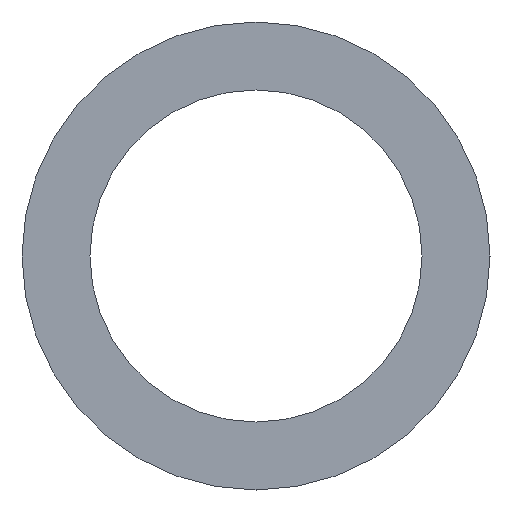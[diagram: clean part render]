
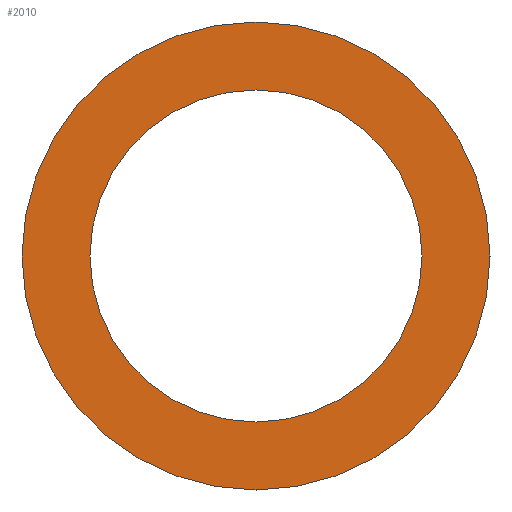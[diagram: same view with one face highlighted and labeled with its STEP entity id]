
A CAD part, front view. The second image highlights one B-rep face of the part: STEP entity #2010.
In plain terms, the highlighted planar face has unit normal (0, -1, 0).
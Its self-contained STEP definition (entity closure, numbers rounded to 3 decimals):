
#9 = AXIS2_PLACEMENT_3D ( 'NONE', #205, #2389, #529 ) ;
#86 = EDGE_LOOP ( 'NONE', ( #2837, #3581 ) ) ;
#97 = CARTESIAN_POINT ( 'NONE',  ( 0., -29., -77.5 ) ) ;
#205 = CARTESIAN_POINT ( 'NONE',  ( 0., -29., 0. ) ) ;
#334 = VERTEX_POINT ( 'NONE', #97 ) ;
#351 = DIRECTION ( 'NONE',  ( 0., 0., -1. ) ) ;
#508 = FACE_OUTER_BOUND ( 'NONE', #86, .T. ) ;
#529 = DIRECTION ( 'NONE',  ( 0., 0., -1. ) ) ;
#550 = ORIENTED_EDGE ( 'NONE', *, *, #3431, .F. ) ;
#650 = VERTEX_POINT ( 'NONE', #3983 ) ;
#768 = DIRECTION ( 'NONE',  ( 0., 0., -1. ) ) ;
#1047 = CARTESIAN_POINT ( 'NONE',  ( 0., -29., 55. ) ) ;
#1096 = CARTESIAN_POINT ( 'NONE',  ( 0., -29., 55. ) ) ;
#1111 = DIRECTION ( 'NONE',  ( 0., -1., 0. ) ) ;
#1252 = DIRECTION ( 'NONE',  ( 0., -1., 0. ) ) ;
#1364 = EDGE_CURVE ( 'NONE', #650, #334, #3311, .T. ) ;
#1381 = DIRECTION ( 'NONE',  ( 0., 0., -1. ) ) ;
#1433 = EDGE_LOOP ( 'NONE', ( #2746, #550 ) ) ;
#1534 = CIRCLE ( 'NONE', #1799, 55. ) ;
#1610 = EDGE_CURVE ( 'NONE', #334, #650, #2503, .T. ) ;
#1736 = AXIS2_PLACEMENT_3D ( 'NONE', #2964, #1111, #768 ) ;
#1799 = AXIS2_PLACEMENT_3D ( 'NONE', #2314, #3605, #1381 ) ;
#1923 = AXIS2_PLACEMENT_3D ( 'NONE', #1047, #3992, #3634 ) ;
#2010 = ADVANCED_FACE ( 'NONE', ( #2861, #508 ), #3918, .F. ) ;
#2314 = CARTESIAN_POINT ( 'NONE',  ( 0., -29., 0. ) ) ;
#2389 = DIRECTION ( 'NONE',  ( 0., -1., 0. ) ) ;
#2503 = CIRCLE ( 'NONE', #2710, 77.5 ) ;
#2582 = VERTEX_POINT ( 'NONE', #2846 ) ;
#2710 = AXIS2_PLACEMENT_3D ( 'NONE', #4073, #1252, #351 ) ;
#2746 = ORIENTED_EDGE ( 'NONE', *, *, #3985, .F. ) ;
#2837 = ORIENTED_EDGE ( 'NONE', *, *, #1610, .T. ) ;
#2846 = CARTESIAN_POINT ( 'NONE',  ( 0., -29., -55. ) ) ;
#2861 = FACE_BOUND ( 'NONE', #1433, .T. ) ;
#2964 = CARTESIAN_POINT ( 'NONE',  ( 0., -29., 0. ) ) ;
#3107 = CIRCLE ( 'NONE', #9, 55. ) ;
#3311 = CIRCLE ( 'NONE', #1736, 77.5 ) ;
#3431 = EDGE_CURVE ( 'NONE', #3468, #2582, #1534, .T. ) ;
#3468 = VERTEX_POINT ( 'NONE', #1096 ) ;
#3581 = ORIENTED_EDGE ( 'NONE', *, *, #1364, .T. ) ;
#3605 = DIRECTION ( 'NONE',  ( 0., -1., 0. ) ) ;
#3634 = DIRECTION ( 'NONE',  ( 0., 0., 1. ) ) ;
#3918 = PLANE ( 'NONE',  #1923 ) ;
#3983 = CARTESIAN_POINT ( 'NONE',  ( 0., -29., 77.5 ) ) ;
#3985 = EDGE_CURVE ( 'NONE', #2582, #3468, #3107, .T. ) ;
#3992 = DIRECTION ( 'NONE',  ( 0., 1., 0. ) ) ;
#4073 = CARTESIAN_POINT ( 'NONE',  ( 0., -29., 0. ) ) ;
